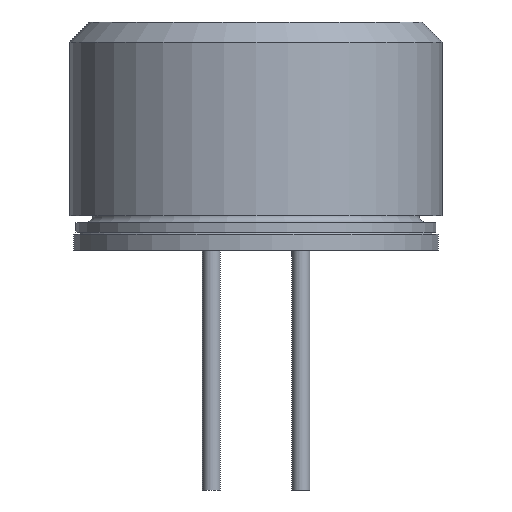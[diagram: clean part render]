
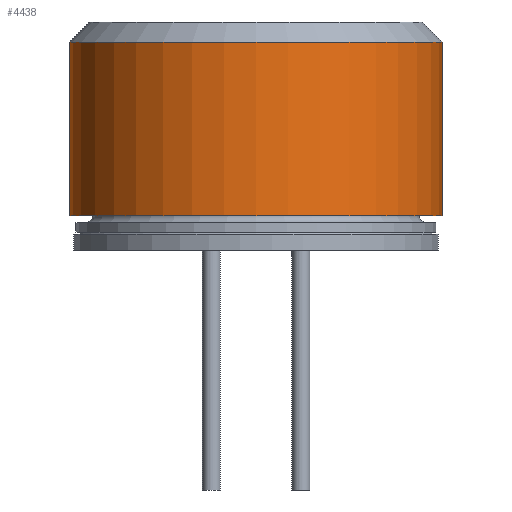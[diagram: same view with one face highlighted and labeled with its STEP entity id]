
A CAD part, front view. The second image highlights one B-rep face of the part: STEP entity #4438.
In plain terms, the highlighted cylindrical face has radius 4.65 mm (diameter 9.3 mm), a partial arc.
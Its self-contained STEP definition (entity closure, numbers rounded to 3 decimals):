
#4055=DIRECTION('',(0.,-1.,0.));
#4056=VECTOR('',#4055,4.35);
#4057=CARTESIAN_POINT('',(-4.65,4.35,0.));
#4058=LINE('',#4057,#4056);
#4059=DIRECTION('',(0.,-1.,0.));
#4060=VECTOR('',#4059,4.35);
#4061=CARTESIAN_POINT('',(4.65,4.35,0.));
#4062=LINE('',#4061,#4060);
#4068=CARTESIAN_POINT('',(0.,4.35,0.));
#4069=DIRECTION('',(0.,1.,0.));
#4070=DIRECTION('',(-1.,0.,0.));
#4071=AXIS2_PLACEMENT_3D('',#4068,#4069,#4070);
#4078=CARTESIAN_POINT('',(0.,0.,0.));
#4079=DIRECTION('',(0.,1.,0.));
#4080=DIRECTION('',(-1.,0.,0.));
#4081=AXIS2_PLACEMENT_3D('',#4078,#4079,#4080);
#4098=CARTESIAN_POINT('',(-4.65,4.35,0.));
#4100=VERTEX_POINT('',#4098);
#4101=CARTESIAN_POINT('',(-4.65,0.,0.));
#4102=VERTEX_POINT('',#4101);
#4118=CARTESIAN_POINT('',(4.65,4.35,0.));
#4120=VERTEX_POINT('',#4118);
#4121=CARTESIAN_POINT('',(4.65,0.,0.));
#4122=VERTEX_POINT('',#4121);
#4426=CARTESIAN_POINT('',(0.,-0.243,0.));
#4427=DIRECTION('',(0.,1.,0.));
#4428=DIRECTION('',(1.,0.,0.));
#4429=AXIS2_PLACEMENT_3D('',#4426,#4427,#4428);
#4430=CYLINDRICAL_SURFACE('',#4429,4.65);
#4431=ORIENTED_EDGE('',*,*,#4409,.F.);
#4432=ORIENTED_EDGE('',*,*,#4372,.T.);
#4433=ORIENTED_EDGE('',*,*,#4413,.T.);
#4435=ORIENTED_EDGE('',*,*,#4434,.F.);
#4436=EDGE_LOOP('',(#4431,#4432,#4433,#4435));
#4437=FACE_OUTER_BOUND('',#4436,.F.);
#4072=CIRCLE('',#4071,4.65);
#4082=CIRCLE('',#4081,4.65);
#4372=EDGE_CURVE('',#4100,#4120,#4072,.T.);
#4409=EDGE_CURVE('',#4100,#4102,#4058,.T.);
#4413=EDGE_CURVE('',#4120,#4122,#4062,.T.);
#4434=EDGE_CURVE('',#4102,#4122,#4082,.T.);
#4438=ADVANCED_FACE('',(#4437),#4430,.T.);
